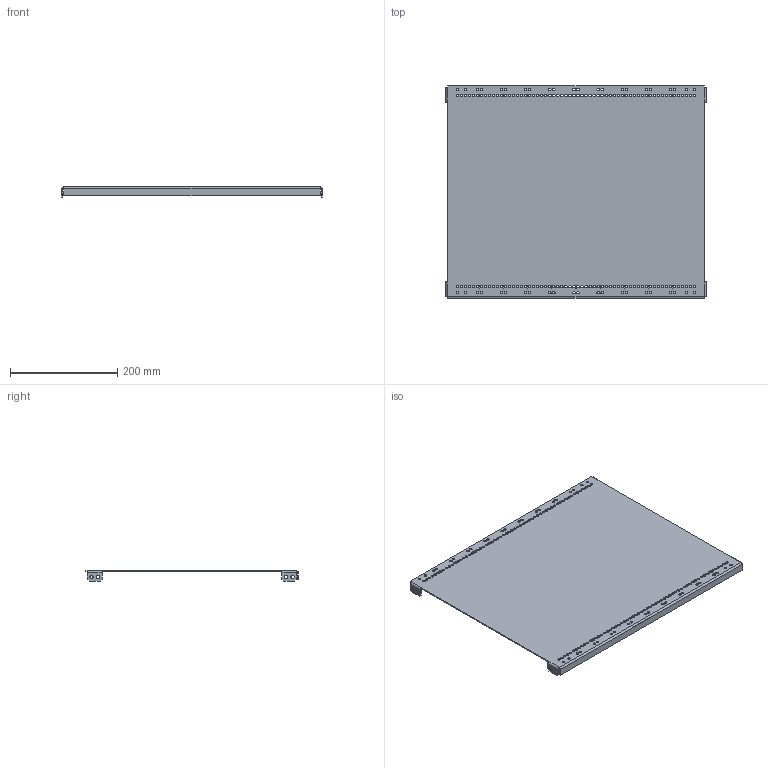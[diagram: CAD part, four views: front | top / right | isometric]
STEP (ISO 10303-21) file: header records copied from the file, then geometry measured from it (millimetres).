
FILE_DESCRIPTION(('STEP AP203'), '1');
FILE_NAME('Ïàíåëü áîêîâàÿ ðåëåéíîãî îòñåêà Â400õÃ600 ìì OptiBox M (2 øò) 419076 ÊÝÀÇ', '', ('UNSPECIFIED'), ('UNSPECIFIED'), 'C3D Converter', 'C3D Toolkit', '');
FILE_SCHEMA(('CONFIG_CONTROL_DESIGN'));
Length unit declared in the file: millimetre
Bounding box: 485 x 397 x 19 mm (x, y, z)
Volume: 390655.4 mm3; surface area: 399917.9 mm2
Topology: 1 solids, 1 shells, 304 faces, 866 edges, 564 vertices
Faces by surface type: cylinder 182, plane 122
Full cylindrical faces by diameter (mm): 4.6 x164, 6.3 x8
Entity records: 9934 total; most frequent: DIRECTION 1668, CARTESIAN_POINT 1563, ORIENTED_EDGE 1388, EDGE_LOOP 856, EDGE_CURVE 694, AXIS2_PLACEMENT_3D 669, VERTEX_POINT 564, FACE_BOUND 512
